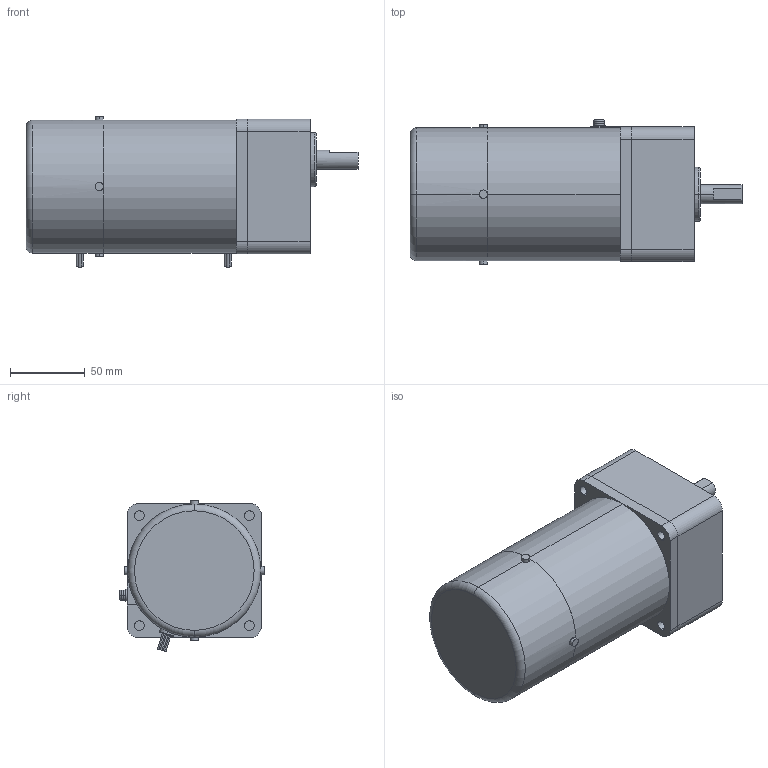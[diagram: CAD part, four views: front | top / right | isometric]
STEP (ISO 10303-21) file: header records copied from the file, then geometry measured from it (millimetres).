
FILE_DESCRIPTION(('starvars output'),'2;1');
FILE_NAME('5IK40GN-SW2M _ 5GN9SA.stp','14:12:50 2015/05/11',( 'Thomas Industrial Network Germany GmbH'),( 'Thomas Industrial Network Germany GmbH'),'unknown preprocess','ACIS' ,'unknown authorization');
FILE_SCHEMA(('AUTOMOTIVE_DESIGN_CC2 {UNKNOWN IMPLEMENTATION LEVEL}'));
Length unit declared in the file: millimetre
Products named in the file (1): PRODUCT_ID_2707
Bounding box: 222 x 96.9 x 101.02 mm (x, y, z)
Volume: 1265132 mm3; surface area: 79321.5 mm2
Topology: 1 solids, 1 shells, 133 faces, 298 edges, 196 vertices
Faces by surface type: cylinder 72, plane 51, torus 10
Entity records: 4799 total; most frequent: CARTESIAN_POINT 933, ORIENTED_EDGE 596, DIRECTION 512, EDGE_CURVE 298, VERTEX_POINT 196, AXIS2_PLACEMENT_3D 195, EDGE_LOOP 162, FACE_BOUND 162
